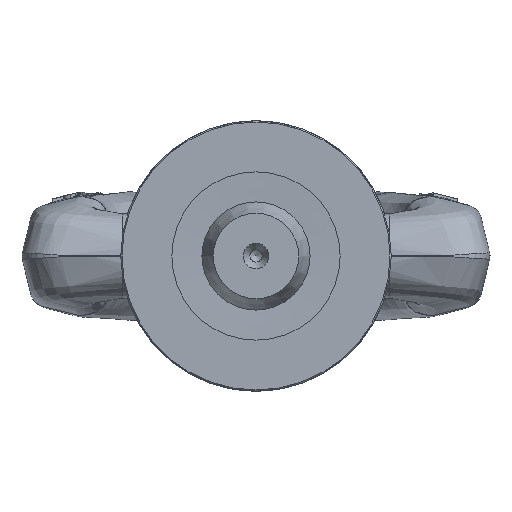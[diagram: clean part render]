
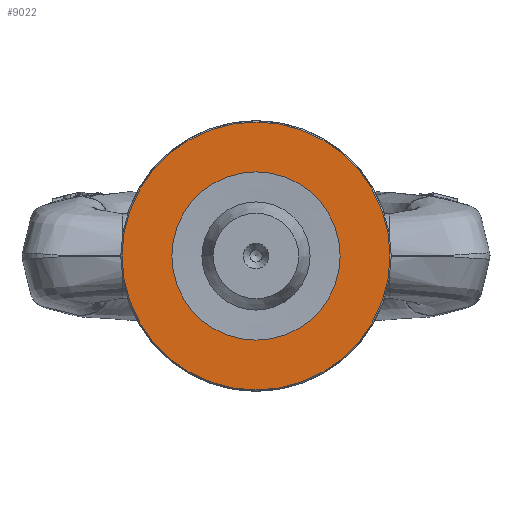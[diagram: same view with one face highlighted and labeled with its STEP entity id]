
A CAD part, front view. The second image highlights one B-rep face of the part: STEP entity #9022.
In plain terms, the highlighted planar face has unit normal (0, -1, 0) as drawn and (0, 0, -1) by its records, which use the part's own axes.
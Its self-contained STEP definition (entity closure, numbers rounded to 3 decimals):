
#2110=PLANE('',#9622);
#2270=FACE_BOUND('',#3273,.T.);
#2689=FACE_OUTER_BOUND('',#3272,.T.);
#3272=EDGE_LOOP('',(#7884));
#3273=EDGE_LOOP('',(#7885));
#3578=CIRCLE('',#9619,22.3);
#3580=CIRCLE('',#9623,14.);
#4312=VERTEX_POINT('',#24975);
#4314=VERTEX_POINT('',#24981);
#5546=EDGE_CURVE('',#4312,#4312,#3578,.T.);
#5548=EDGE_CURVE('',#4314,#4314,#3580,.T.);
#7884=ORIENTED_EDGE('',*,*,#5546,.F.);
#7885=ORIENTED_EDGE('',*,*,#5548,.F.);
#9022=ADVANCED_FACE('',(#2689,#2270),#2110,.F.);
#9619=AXIS2_PLACEMENT_3D('',#24976,#10902,#10903);
#9622=AXIS2_PLACEMENT_3D('',#24980,#10908,#10909);
#9623=AXIS2_PLACEMENT_3D('',#24982,#10910,#10911);
#10902=DIRECTION('center_axis',(0.,0.,1.));
#10903=DIRECTION('ref_axis',(-1.,0.,0.));
#10908=DIRECTION('center_axis',(0.,0.,1.));
#10909=DIRECTION('ref_axis',(1.,0.,0.));
#10910=DIRECTION('center_axis',(0.,0.,-1.));
#10911=DIRECTION('ref_axis',(-1.,0.,0.));
#24975=CARTESIAN_POINT('',(22.3,0.,0.));
#24976=CARTESIAN_POINT('Origin',(0.,0.,0.));
#24980=CARTESIAN_POINT('Origin',(0.,0.,0.));
#24981=CARTESIAN_POINT('',(14.,0.,0.));
#24982=CARTESIAN_POINT('Origin',(0.,0.,0.));
